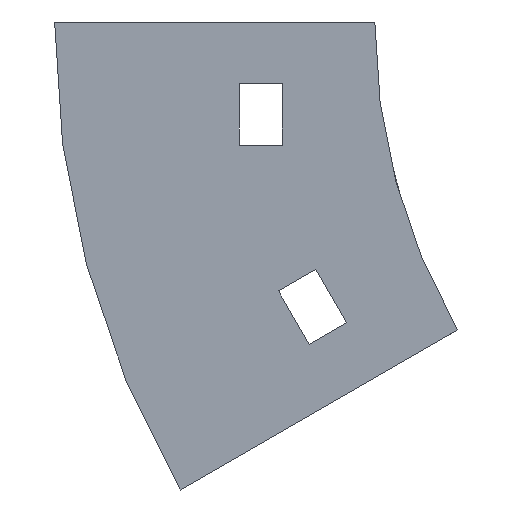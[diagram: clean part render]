
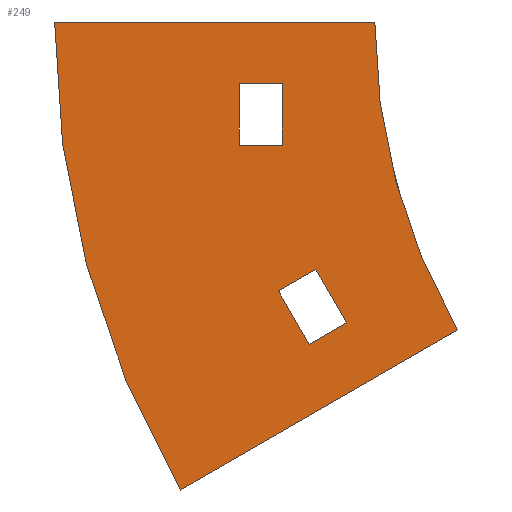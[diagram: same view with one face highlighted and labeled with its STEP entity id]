
A CAD part, left-side view. The second image highlights one B-rep face of the part: STEP entity #249.
In plain terms, the highlighted planar face has unit normal (-1, 0, 0).
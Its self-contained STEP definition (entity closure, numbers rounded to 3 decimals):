
#9 = DIRECTION ( 'NONE',  ( 0., 0.5, 0.866 ) ) ;
#13 = CARTESIAN_POINT ( 'NONE',  ( -77., 10.655, -52.34 ) ) ;
#21 = EDGE_LOOP ( 'NONE', ( #47, #1032, #491, #506 ) ) ;
#22 = LINE ( 'NONE', #794, #118 ) ;
#37 = CIRCLE ( 'NONE', #690, 152. ) ;
#41 = EDGE_CURVE ( 'NONE', #317, #466, #154, .T. ) ;
#47 = ORIENTED_EDGE ( 'NONE', *, *, #485, .F. ) ;
#50 = ORIENTED_EDGE ( 'NONE', *, *, #207, .T. ) ;
#83 = VECTOR ( 'NONE', #897, 1000. ) ;
#87 = DIRECTION ( 'NONE',  ( 0., -0.866, 0.5 ) ) ;
#118 = VECTOR ( 'NONE', #468, 1000. ) ;
#142 = LINE ( 'NONE', #1027, #186 ) ;
#154 = LINE ( 'NONE', #773, #245 ) ;
#161 = CARTESIAN_POINT ( 'NONE',  ( -77., -100., 0. ) ) ;
#163 = VECTOR ( 'NONE', #629, 1000. ) ;
#185 = DIRECTION ( 'NONE',  ( -1., 0., 0. ) ) ;
#186 = VECTOR ( 'NONE', #852, 1000. ) ;
#200 = ORIENTED_EDGE ( 'NONE', *, *, #1079, .F. ) ;
#201 = EDGE_LOOP ( 'NONE', ( #200, #529, #456, #860 ) ) ;
#202 = CARTESIAN_POINT ( 'NONE',  ( -77., 22., -10. ) ) ;
#207 = EDGE_CURVE ( 'NONE', #777, #548, #878, .T. ) ;
#218 = VECTOR ( 'NONE', #783, 1000. ) ;
#245 = VECTOR ( 'NONE', #781, 1000. ) ;
#248 = FACE_BOUND ( 'NONE', #201, .T. ) ;
#249 = ADVANCED_FACE ( 'NONE', ( #545, #696, #248 ), #882, .T. ) ;
#261 = DIRECTION ( 'NONE',  ( 0., 0., 1. ) ) ;
#269 = EDGE_LOOP ( 'NONE', ( #970, #991, #50, #844 ) ) ;
#317 = VERTEX_POINT ( 'NONE', #1093 ) ;
#332 = VECTOR ( 'NONE', #1045, 1000. ) ;
#371 = LINE ( 'NONE', #800, #163 ) ;
#385 = VERTEX_POINT ( 'NONE', #569 ) ;
#399 = EDGE_CURVE ( 'NONE', #581, #385, #598, .T. ) ;
#403 = CARTESIAN_POINT ( 'NONE',  ( -77., 10.655, -52.34 ) ) ;
#435 = EDGE_CURVE ( 'NONE', #703, #831, #475, .T. ) ;
#456 = ORIENTED_EDGE ( 'NONE', *, *, #435, .F. ) ;
#466 = VERTEX_POINT ( 'NONE', #980 ) ;
#468 = DIRECTION ( 'NONE',  ( 0., 0., 1. ) ) ;
#475 = LINE ( 'NONE', #403, #616 ) ;
#481 = DIRECTION ( 'NONE',  ( 0., 0., 1. ) ) ;
#485 = EDGE_CURVE ( 'NONE', #466, #581, #768, .T. ) ;
#491 = ORIENTED_EDGE ( 'NONE', *, *, #651, .F. ) ;
#506 = ORIENTED_EDGE ( 'NONE', *, *, #399, .F. ) ;
#509 = EDGE_CURVE ( 'NONE', #548, #1076, #22, .T. ) ;
#516 = DIRECTION ( 'NONE',  ( -1., 0., 0. ) ) ;
#519 = CARTESIAN_POINT ( 'NONE',  ( -77., 22., -10. ) ) ;
#529 = ORIENTED_EDGE ( 'NONE', *, *, #955, .F. ) ;
#531 = DIRECTION ( 'NONE',  ( 0., 0., 1. ) ) ;
#544 = LINE ( 'NONE', #638, #707 ) ;
#545 = FACE_BOUND ( 'NONE', #269, .T. ) ;
#548 = VERTEX_POINT ( 'NONE', #1086 ) ;
#569 = CARTESIAN_POINT ( 'NONE',  ( -77., 31.636, -76. ) ) ;
#576 = VERTEX_POINT ( 'NONE', #757 ) ;
#581 = VERTEX_POINT ( 'NONE', #922 ) ;
#598 = LINE ( 'NONE', #689, #332 ) ;
#616 = VECTOR ( 'NONE', #841, 1000. ) ;
#629 = DIRECTION ( 'NONE',  ( 0., 0., -1. ) ) ;
#638 = CARTESIAN_POINT ( 'NONE',  ( -77., 4.593, -48.84 ) ) ;
#651 = EDGE_CURVE ( 'NONE', #385, #317, #37, .T. ) ;
#657 = CARTESIAN_POINT ( 'NONE',  ( -77., -100., 0. ) ) ;
#689 = CARTESIAN_POINT ( 'NONE',  ( -77., -13.397, -50. ) ) ;
#690 = AXIS2_PLACEMENT_3D ( 'NONE', #657, #1008, #481 ) ;
#696 = FACE_OUTER_BOUND ( 'NONE', #21, .T. ) ;
#702 = CARTESIAN_POINT ( 'NONE',  ( -77., 15., -20. ) ) ;
#703 = VERTEX_POINT ( 'NONE', #1137 ) ;
#707 = VECTOR ( 'NONE', #9, 1000. ) ;
#711 = CARTESIAN_POINT ( 'NONE',  ( -77., -100., 0. ) ) ;
#735 = CARTESIAN_POINT ( 'NONE',  ( -77., 4.593, -48.84 ) ) ;
#757 = CARTESIAN_POINT ( 'NONE',  ( -77., 9.593, -40.179 ) ) ;
#760 = EDGE_CURVE ( 'NONE', #1076, #936, #1134, .T. ) ;
#768 = CIRCLE ( 'NONE', #1133, 100. ) ;
#773 = CARTESIAN_POINT ( 'NONE',  ( -77., 52., 0. ) ) ;
#777 = VERTEX_POINT ( 'NONE', #702 ) ;
#781 = DIRECTION ( 'NONE',  ( 0., -1., 0. ) ) ;
#783 = DIRECTION ( 'NONE',  ( 0., -1., 0. ) ) ;
#791 = EDGE_CURVE ( 'NONE', #936, #777, #371, .T. ) ;
#794 = CARTESIAN_POINT ( 'NONE',  ( -77., 22., -10. ) ) ;
#800 = CARTESIAN_POINT ( 'NONE',  ( -77., 15., -10. ) ) ;
#831 = VERTEX_POINT ( 'NONE', #13 ) ;
#841 = DIRECTION ( 'NONE',  ( 0., -0.5, -0.866 ) ) ;
#844 = ORIENTED_EDGE ( 'NONE', *, *, #509, .T. ) ;
#852 = DIRECTION ( 'NONE',  ( 0., 0.866, -0.5 ) ) ;
#860 = ORIENTED_EDGE ( 'NONE', *, *, #1135, .F. ) ;
#878 = LINE ( 'NONE', #1138, #83 ) ;
#879 = AXIS2_PLACEMENT_3D ( 'NONE', #161, #516, #261 ) ;
#881 = LINE ( 'NONE', #978, #1114 ) ;
#882 = PLANE ( 'NONE',  #879 ) ;
#897 = DIRECTION ( 'NONE',  ( 0., 1., 0. ) ) ;
#922 = CARTESIAN_POINT ( 'NONE',  ( -77., -13.397, -50. ) ) ;
#936 = VERTEX_POINT ( 'NONE', #975 ) ;
#955 = EDGE_CURVE ( 'NONE', #831, #1113, #881, .T. ) ;
#970 = ORIENTED_EDGE ( 'NONE', *, *, #760, .T. ) ;
#975 = CARTESIAN_POINT ( 'NONE',  ( -77., 15., -10. ) ) ;
#978 = CARTESIAN_POINT ( 'NONE',  ( -77., 10.655, -52.34 ) ) ;
#980 = CARTESIAN_POINT ( 'NONE',  ( -77., 0., 0. ) ) ;
#991 = ORIENTED_EDGE ( 'NONE', *, *, #791, .T. ) ;
#1008 = DIRECTION ( 'NONE',  ( 1., 0., 0. ) ) ;
#1027 = CARTESIAN_POINT ( 'NONE',  ( -77., 15.655, -43.679 ) ) ;
#1032 = ORIENTED_EDGE ( 'NONE', *, *, #41, .F. ) ;
#1045 = DIRECTION ( 'NONE',  ( 0., 0.866, -0.5 ) ) ;
#1076 = VERTEX_POINT ( 'NONE', #202 ) ;
#1079 = EDGE_CURVE ( 'NONE', #1113, #576, #544, .T. ) ;
#1086 = CARTESIAN_POINT ( 'NONE',  ( -77., 22., -20. ) ) ;
#1093 = CARTESIAN_POINT ( 'NONE',  ( -77., 52., 0. ) ) ;
#1113 = VERTEX_POINT ( 'NONE', #735 ) ;
#1114 = VECTOR ( 'NONE', #87, 1000. ) ;
#1133 = AXIS2_PLACEMENT_3D ( 'NONE', #711, #185, #531 ) ;
#1134 = LINE ( 'NONE', #519, #218 ) ;
#1135 = EDGE_CURVE ( 'NONE', #576, #703, #142, .T. ) ;
#1137 = CARTESIAN_POINT ( 'NONE',  ( -77., 15.655, -43.679 ) ) ;
#1138 = CARTESIAN_POINT ( 'NONE',  ( -77., 22., -20. ) ) ;
